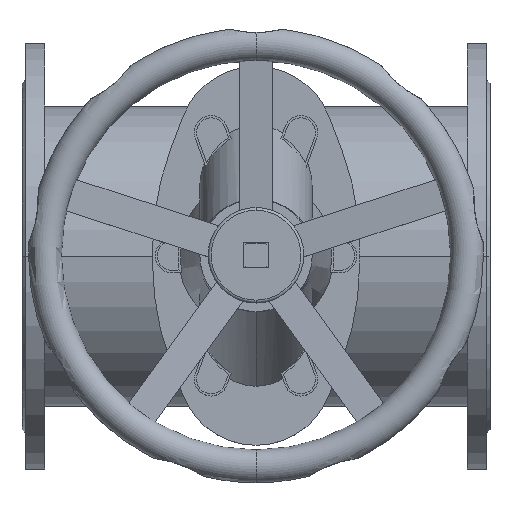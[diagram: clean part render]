
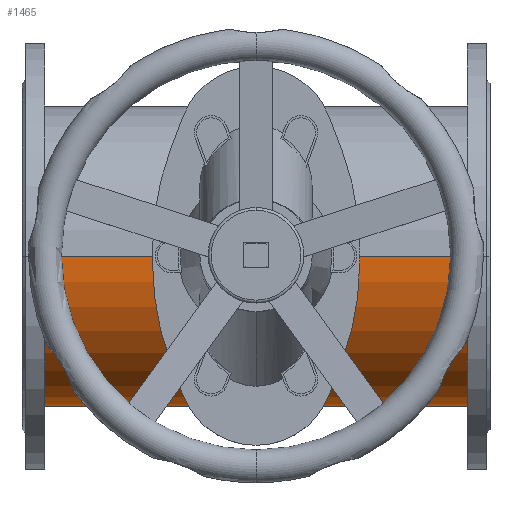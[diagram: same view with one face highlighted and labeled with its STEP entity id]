
A CAD part, top view. The second image highlights one B-rep face of the part: STEP entity #1465.
In plain terms, the highlighted cylindrical face has radius 160 mm (diameter 320 mm), a partial arc.
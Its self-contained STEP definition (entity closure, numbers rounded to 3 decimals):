
#1465=ADVANCED_FACE('',(#3046),#3047,.T.);
#3046=FACE_OUTER_BOUND('',#5214,.T.);
#3047=CYLINDRICAL_SURFACE('',#5215,160.0);
#5214=EDGE_LOOP('',(#7981,#7982,#7983,#7984));
#5215=AXIS2_PLACEMENT_3D('',#7985,#7986,#7987);
#7981=ORIENTED_EDGE('',*,*,#12605,.F.);
#7982=ORIENTED_EDGE('',*,*,#12606,.T.);
#7983=ORIENTED_EDGE('',*,*,#12607,.F.);
#7984=ORIENTED_EDGE('',*,*,#12608,.T.);
#7985=CARTESIAN_POINT('',(24.5,0.0,0.));
#7986=DIRECTION('',(1.0,0.0,0.));
#7987=DIRECTION('',(0.,0.0,1.0));
#12605=EDGE_CURVE('',#15107,#15108,#15109,.T.);
#12606=EDGE_CURVE('',#15107,#15110,#15111,.T.);
#12607=EDGE_CURVE('',#15112,#15110,#15113,.T.);
#12608=EDGE_CURVE('',#15112,#15108,#15114,.T.);
#15107=VERTEX_POINT('',#18376);
#15108=VERTEX_POINT('',#18377);
#15109=LINE('',#18378,#18379);
#15110=VERTEX_POINT('',#18380);
#15111=CIRCLE('',#18381,160.0);
#15112=VERTEX_POINT('',#18382);
#15113=LINE('',#18383,#18384);
#15114=CIRCLE('',#18385,160.0);
#18376=CARTESIAN_POINT('',(24.5,0.0,160.0));
#18377=CARTESIAN_POINT('',(475.5,0.0,160.0));
#18378=CARTESIAN_POINT('',(24.5,0.,160.0));
#18379=VECTOR('',#21784,1.0);
#18380=CARTESIAN_POINT('',(24.5,0.,-160.0));
#18381=AXIS2_PLACEMENT_3D('',#21785,#21786,#21787);
#18382=CARTESIAN_POINT('',(475.5,0.,-160.0));
#18383=CARTESIAN_POINT('',(24.5,0.,-160.0));
#18384=VECTOR('',#21788,1.0);
#18385=AXIS2_PLACEMENT_3D('',#21789,#21790,#21791);
#21784=DIRECTION('',(1.0,0.0,0.));
#21785=CARTESIAN_POINT('',(24.5,0.0,0.));
#21786=DIRECTION('',(1.0,0.0,0.));
#21787=DIRECTION('',(0.,0.0,1.0));
#21788=DIRECTION('',(-1.0,-0.0,0.));
#21789=CARTESIAN_POINT('',(475.5,0.0,0.));
#21790=DIRECTION('',(-1.0,0.0,0.));
#21791=DIRECTION('',(0.,0.0,1.0));
